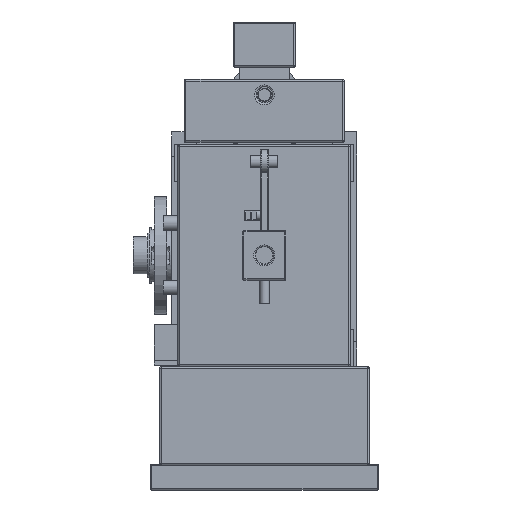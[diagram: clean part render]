
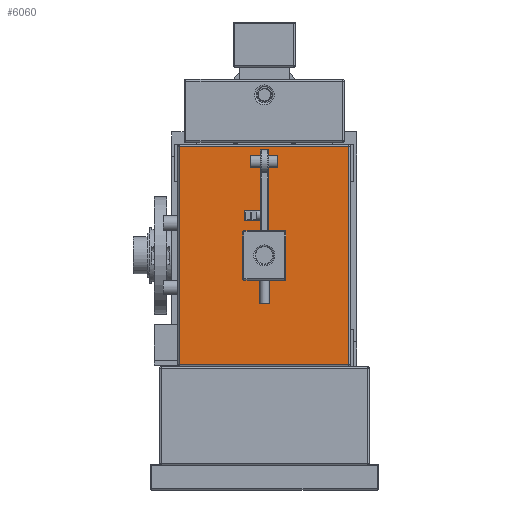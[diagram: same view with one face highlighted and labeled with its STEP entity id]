
A CAD part, left-side view. The second image highlights one B-rep face of the part: STEP entity #6060.
In plain terms, the highlighted planar face has unit normal (-1, 0, 0).
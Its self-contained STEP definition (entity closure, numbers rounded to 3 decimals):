
#6060 = ADVANCED_FACE('',(#6061,#6180),#6075,.F.);
#6061 = FACE_BOUND('',#6062,.F.);
#6062 = EDGE_LOOP('',(#6063,#6098,#6126,#6154));
#6063 = ORIENTED_EDGE('',*,*,#6064,.F.);
#6064 = EDGE_CURVE('',#6065,#6067,#6069,.T.);
#6065 = VERTEX_POINT('',#6066);
#6066 = CARTESIAN_POINT('',(180.,-137.,203.));
#6067 = VERTEX_POINT('',#6068);
#6068 = CARTESIAN_POINT('',(180.,-137.,557.));
#6069 = SURFACE_CURVE('',#6070,(#6074,#6086),.PCURVE_S1.);
#6070 = LINE('',#6071,#6072);
#6071 = CARTESIAN_POINT('',(180.,-137.,200.));
#6072 = VECTOR('',#6073,1.);
#6073 = DIRECTION('',(0.,0.,1.));
#6074 = PCURVE('',#6075,#6080);
#6075 = PLANE('',#6076);
#6076 = AXIS2_PLACEMENT_3D('',#6077,#6078,#6079);
#6077 = CARTESIAN_POINT('',(180.,-140.,200.));
#6078 = DIRECTION('',(1.,0.,-0.));
#6079 = DIRECTION('',(0.,0.,1.));
#6080 = DEFINITIONAL_REPRESENTATION('',(#6081),#6085);
#6081 = LINE('',#6082,#6083);
#6082 = CARTESIAN_POINT('',(0.,-3.));
#6083 = VECTOR('',#6084,1.);
#6084 = DIRECTION('',(1.,0.));
#6085 = ( GEOMETRIC_REPRESENTATION_CONTEXT(2) 
PARAMETRIC_REPRESENTATION_CONTEXT() REPRESENTATION_CONTEXT('2D SPACE',''
  ) );
#6086 = PCURVE('',#6087,#6092);
#6087 = CYLINDRICAL_SURFACE('',#6088,3.);
#6088 = AXIS2_PLACEMENT_3D('',#6089,#6090,#6091);
#6089 = CARTESIAN_POINT('',(183.,-137.,200.));
#6090 = DIRECTION('',(0.,0.,1.));
#6091 = DIRECTION('',(-1.,-0.,0.));
#6092 = DEFINITIONAL_REPRESENTATION('',(#6093),#6097);
#6093 = LINE('',#6094,#6095);
#6094 = CARTESIAN_POINT('',(0.,0.));
#6095 = VECTOR('',#6096,1.);
#6096 = DIRECTION('',(0.,1.));
#6097 = ( GEOMETRIC_REPRESENTATION_CONTEXT(2) 
PARAMETRIC_REPRESENTATION_CONTEXT() REPRESENTATION_CONTEXT('2D SPACE',''
  ) );
#6098 = ORIENTED_EDGE('',*,*,#6099,.T.);
#6099 = EDGE_CURVE('',#6065,#6100,#6102,.T.);
#6100 = VERTEX_POINT('',#6101);
#6101 = CARTESIAN_POINT('',(180.,137.,203.));
#6102 = SURFACE_CURVE('',#6103,(#6107,#6114),.PCURVE_S1.);
#6103 = LINE('',#6104,#6105);
#6104 = CARTESIAN_POINT('',(180.,-140.,203.));
#6105 = VECTOR('',#6106,1.);
#6106 = DIRECTION('',(-0.,1.,0.));
#6107 = PCURVE('',#6075,#6108);
#6108 = DEFINITIONAL_REPRESENTATION('',(#6109),#6113);
#6109 = LINE('',#6110,#6111);
#6110 = CARTESIAN_POINT('',(3.,0.));
#6111 = VECTOR('',#6112,1.);
#6112 = DIRECTION('',(0.,-1.));
#6113 = ( GEOMETRIC_REPRESENTATION_CONTEXT(2) 
PARAMETRIC_REPRESENTATION_CONTEXT() REPRESENTATION_CONTEXT('2D SPACE',''
  ) );
#6114 = PCURVE('',#6115,#6120);
#6115 = CYLINDRICAL_SURFACE('',#6116,3.);
#6116 = AXIS2_PLACEMENT_3D('',#6117,#6118,#6119);
#6117 = CARTESIAN_POINT('',(183.,-140.,203.));
#6118 = DIRECTION('',(-0.,1.,0.));
#6119 = DIRECTION('',(-1.,-0.,0.));
#6120 = DEFINITIONAL_REPRESENTATION('',(#6121),#6125);
#6121 = LINE('',#6122,#6123);
#6122 = CARTESIAN_POINT('',(-0.,0.));
#6123 = VECTOR('',#6124,1.);
#6124 = DIRECTION('',(-0.,1.));
#6125 = ( GEOMETRIC_REPRESENTATION_CONTEXT(2) 
PARAMETRIC_REPRESENTATION_CONTEXT() REPRESENTATION_CONTEXT('2D SPACE',''
  ) );
#6126 = ORIENTED_EDGE('',*,*,#6127,.T.);
#6127 = EDGE_CURVE('',#6100,#6128,#6130,.T.);
#6128 = VERTEX_POINT('',#6129);
#6129 = CARTESIAN_POINT('',(180.,137.,557.));
#6130 = SURFACE_CURVE('',#6131,(#6135,#6142),.PCURVE_S1.);
#6131 = LINE('',#6132,#6133);
#6132 = CARTESIAN_POINT('',(180.,137.,200.));
#6133 = VECTOR('',#6134,1.);
#6134 = DIRECTION('',(0.,0.,1.));
#6135 = PCURVE('',#6075,#6136);
#6136 = DEFINITIONAL_REPRESENTATION('',(#6137),#6141);
#6137 = LINE('',#6138,#6139);
#6138 = CARTESIAN_POINT('',(0.,-277.));
#6139 = VECTOR('',#6140,1.);
#6140 = DIRECTION('',(1.,0.));
#6141 = ( GEOMETRIC_REPRESENTATION_CONTEXT(2) 
PARAMETRIC_REPRESENTATION_CONTEXT() REPRESENTATION_CONTEXT('2D SPACE',''
  ) );
#6142 = PCURVE('',#6143,#6148);
#6143 = CYLINDRICAL_SURFACE('',#6144,3.);
#6144 = AXIS2_PLACEMENT_3D('',#6145,#6146,#6147);
#6145 = CARTESIAN_POINT('',(183.,137.,200.));
#6146 = DIRECTION('',(0.,0.,1.));
#6147 = DIRECTION('',(-1.,-0.,0.));
#6148 = DEFINITIONAL_REPRESENTATION('',(#6149),#6153);
#6149 = LINE('',#6150,#6151);
#6150 = CARTESIAN_POINT('',(-0.,0.));
#6151 = VECTOR('',#6152,1.);
#6152 = DIRECTION('',(-0.,1.));
#6153 = ( GEOMETRIC_REPRESENTATION_CONTEXT(2) 
PARAMETRIC_REPRESENTATION_CONTEXT() REPRESENTATION_CONTEXT('2D SPACE',''
  ) );
#6154 = ORIENTED_EDGE('',*,*,#6155,.F.);
#6155 = EDGE_CURVE('',#6067,#6128,#6156,.T.);
#6156 = SURFACE_CURVE('',#6157,(#6161,#6168),.PCURVE_S1.);
#6157 = LINE('',#6158,#6159);
#6158 = CARTESIAN_POINT('',(180.,-140.,557.));
#6159 = VECTOR('',#6160,1.);
#6160 = DIRECTION('',(-0.,1.,0.));
#6161 = PCURVE('',#6075,#6162);
#6162 = DEFINITIONAL_REPRESENTATION('',(#6163),#6167);
#6163 = LINE('',#6164,#6165);
#6164 = CARTESIAN_POINT('',(357.,0.));
#6165 = VECTOR('',#6166,1.);
#6166 = DIRECTION('',(0.,-1.));
#6167 = ( GEOMETRIC_REPRESENTATION_CONTEXT(2) 
PARAMETRIC_REPRESENTATION_CONTEXT() REPRESENTATION_CONTEXT('2D SPACE',''
  ) );
#6168 = PCURVE('',#6169,#6174);
#6169 = CYLINDRICAL_SURFACE('',#6170,3.);
#6170 = AXIS2_PLACEMENT_3D('',#6171,#6172,#6173);
#6171 = CARTESIAN_POINT('',(183.,-140.,557.));
#6172 = DIRECTION('',(-0.,1.,0.));
#6173 = DIRECTION('',(-1.,-0.,0.));
#6174 = DEFINITIONAL_REPRESENTATION('',(#6175),#6179);
#6175 = LINE('',#6176,#6177);
#6176 = CARTESIAN_POINT('',(0.,0.));
#6177 = VECTOR('',#6178,1.);
#6178 = DIRECTION('',(0.,1.));
#6179 = ( GEOMETRIC_REPRESENTATION_CONTEXT(2) 
PARAMETRIC_REPRESENTATION_CONTEXT() REPRESENTATION_CONTEXT('2D SPACE',''
  ) );
#6180 = FACE_BOUND('',#6181,.F.);
#6181 = EDGE_LOOP('',(#6182));
#6182 = ORIENTED_EDGE('',*,*,#6183,.F.);
#6183 = EDGE_CURVE('',#6184,#6184,#6186,.T.);
#6184 = VERTEX_POINT('',#6185);
#6185 = CARTESIAN_POINT('',(180.,0.,396.));
#6186 = SURFACE_CURVE('',#6187,(#6192,#6199),.PCURVE_S1.);
#6187 = CIRCLE('',#6188,16.);
#6188 = AXIS2_PLACEMENT_3D('',#6189,#6190,#6191);
#6189 = CARTESIAN_POINT('',(180.,0.,380.));
#6190 = DIRECTION('',(1.,0.,-0.));
#6191 = DIRECTION('',(0.,0.,1.));
#6192 = PCURVE('',#6075,#6193);
#6193 = DEFINITIONAL_REPRESENTATION('',(#6194),#6198);
#6194 = CIRCLE('',#6195,16.);
#6195 = AXIS2_PLACEMENT_2D('',#6196,#6197);
#6196 = CARTESIAN_POINT('',(180.,-140.));
#6197 = DIRECTION('',(1.,0.));
#6198 = ( GEOMETRIC_REPRESENTATION_CONTEXT(2) 
PARAMETRIC_REPRESENTATION_CONTEXT() REPRESENTATION_CONTEXT('2D SPACE',''
  ) );
#6199 = PCURVE('',#6200,#6205);
#6200 = TOROIDAL_SURFACE('',#6201,16.,3.);
#6201 = AXIS2_PLACEMENT_3D('',#6202,#6203,#6204);
#6202 = CARTESIAN_POINT('',(183.,0.,380.));
#6203 = DIRECTION('',(-1.,-0.,0.));
#6204 = DIRECTION('',(0.,0.,1.));
#6205 = DEFINITIONAL_REPRESENTATION('',(#6206),#6210);
#6206 = LINE('',#6207,#6208);
#6207 = CARTESIAN_POINT('',(-0.,1.571));
#6208 = VECTOR('',#6209,1.);
#6209 = DIRECTION('',(-1.,0.));
#6210 = ( GEOMETRIC_REPRESENTATION_CONTEXT(2) 
PARAMETRIC_REPRESENTATION_CONTEXT() REPRESENTATION_CONTEXT('2D SPACE',''
  ) );
